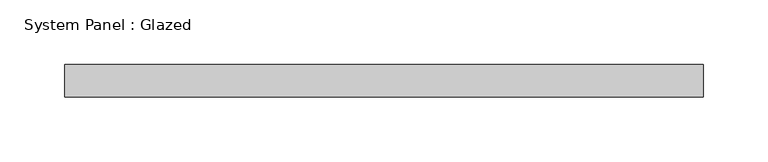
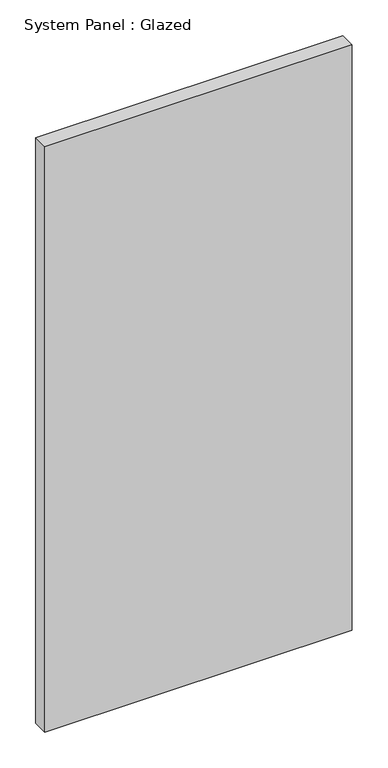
"""IFC4 building model written with IfcOpenShell, lengths in millimetres: plate geometry, System Panel : Glazed."""

from ifc_helpers import new_model, si_unit, origin, origin_with_axes, place, context, project, spatial, polyline, outline, extrude, source, transform, mapped, element, save


def system_panel_glazed_07966f1a(model_context):
    return source(origin(), model_context, "Body", "SweptSolid", [
        extrude(outline(polyline([(247.65, 19.05), (-247.65, 19.05), (-247.65, 44.45), (247.65, 44.45), (247.65, 19.05)])), origin_with_axes(), (0.0, 0.0, 1.0), 996.95),
    ])


if __name__ == "__main__":
    model = new_model("IFC4")
    model_context = context("Model", 3, world=origin())
    ifc_project = project(units=[si_unit("LENGTHUNIT", "METRE", prefix="MILLI")], contexts=[model_context])
    site = spatial("IfcSite", under=ifc_project)
    building = spatial("IfcBuilding", under=site)
    placement = place(None, origin())
    system_panel_glazed_shape = system_panel_glazed_07966f1a(model_context)
    element("IfcPlate", 1, ObjectType="System Panel : Glazed", at=placement, inside=building, context=model_context, shape_type="MappedRepresentation", body=[
        mapped(system_panel_glazed_shape, transform((0.0, 0.0, 0.0), x_axis=(1.0, 0.0, 0.0), y_axis=(0.0, 1.0, 0.0), z_axis=(0.0, 0.0, 1.0))),
    ])
    save(model, "model.ifc")
